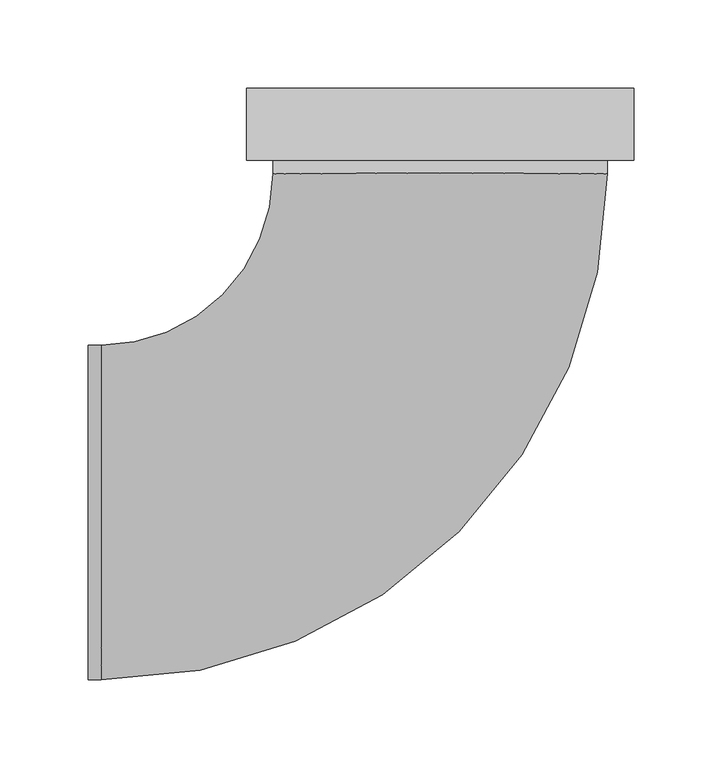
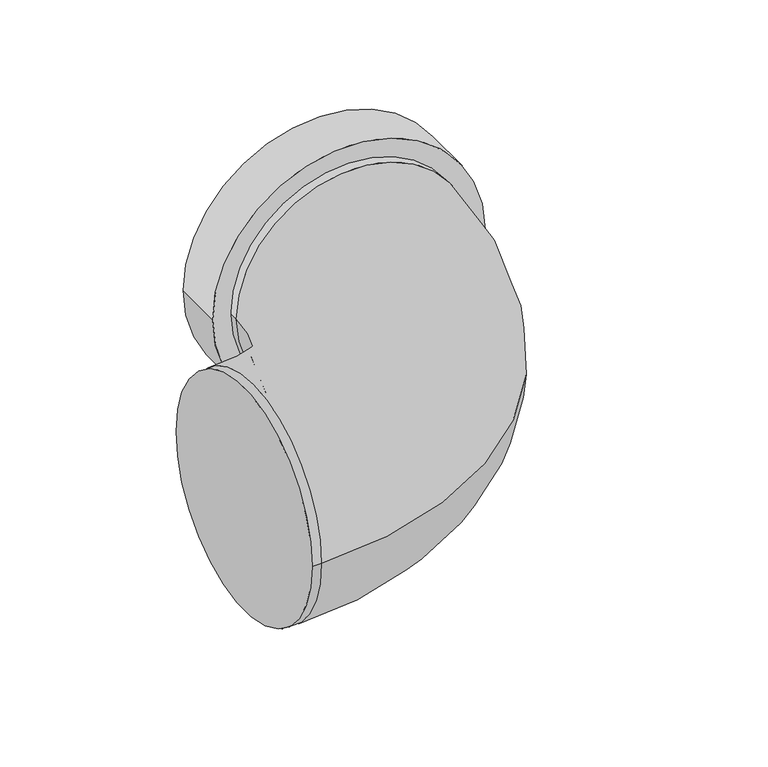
"""IFC4 building model written with IfcOpenShell, lengths in millimetres: duct fitting geometry, NLRS_57_DUF_UN_bend EPP_M&G : ø125 - ø180."""

from ifc_helpers import new_model, si_unit, point, frame, origin, place, context, project, spatial, polyline, circle_curve, ellipse_curve, trimmed, source, transform, mapped, element, save
from ifc_brep_helpers import plane_surface, cylinder_surface, revolved_surface, advanced_brep


def duct_fitting_00e25ecf(model_context):
    return source(origin(), model_context, "Body", "AdvancedBrep", [
        advanced_brep(
        [(-200.0, -95.0, 0.0), (-200.0, 95.0, 0.0), (-192.5, -95.0, 0.0), (-192.5, 95.0, 0.0), (-95.0, 192.5, 0.0), (95.0, 192.5, 0.0), (95.0, 204.0, 0.0), (-95.0, 204.0, 0.0)],
        [
            (0, 1, circle_curve(frame((-200.0, 0.0, 0.0), z_axis=(-1.0, 0.0, 0.0), x_axis=(0.0, 1.0, 0.0)), 95.0)),
            (1, 0, circle_curve(frame((-200.0, 0.0, 0.0), z_axis=(-1.0, 0.0, 0.0), x_axis=(0.0, 1.0, 0.0)), 95.0)),
            (0, 2),
            (2, 3, circle_curve(frame((-192.5, 0.0, 0.0), z_axis=(-1.0, 0.0, 0.0), x_axis=(0.0, 1.0, 0.0)), 95.0)),
            (3, 1),
            (3, 2, circle_curve(frame((-192.5, 0.0, 0.0), z_axis=(-1.0, 0.0, 0.0), x_axis=(0.0, 1.0, 0.0)), 95.0)),
            (4, 3, circle_curve(frame((-192.5, 192.5, 0.0), z_axis=(0.0, 0.0, -1.0), x_axis=(0.0, -1.0, 0.0)), 97.5)),
            (2, 5, circle_curve(frame((-192.5, 192.5, 0.0), z_axis=(0.0, 0.0, 1.0), x_axis=(0.0, -1.0, 0.0)), 287.5)),
            (5, 4, circle_curve(frame((0.0, 192.5, 0.0), z_axis=(0.0, -1.0, 0.0), x_axis=(-1.0, 0.0, 0.0)), 95.0)),
            (4, 5, circle_curve(frame((0.0, 192.5, 0.0), z_axis=(0.0, -1.0, 0.0), x_axis=(-1.0, 0.0, 0.0)), 95.0)),
            (6, 7, circle_curve(frame((0.0, 204.0, 0.0), z_axis=(0.0, 1.0, 0.0), x_axis=(-1.0, 0.0, 0.0)), 95.0)),
            (7, 6, circle_curve(frame((0.0, 204.0, 0.0), z_axis=(0.0, 1.0, 0.0), x_axis=(-1.0, 0.0, 0.0)), 95.0)),
            (5, 6),
            (7, 4),
        ],
        [
            plane_surface(frame((-200.0, 0.0, 0.0), z_axis=(-1.0, 0.0, 0.0), x_axis=(0.0, 0.0, 1.0))),
            cylinder_surface(frame((-200.0, 0.0, 0.0), z_axis=(-1.0, 0.0, 0.0), x_axis=(0.0, 1.0, 0.0)), 95.0),
            revolved_surface(trimmed(ellipse_curve(frame((-192.5, 0.0, 0.0), z_axis=(-1.0, 0.0, 0.0), x_axis=(0.0, 1.0, 0.0)), 95.0, 95.0), [point((-192.5, -95.0, 0.0))], [point((-192.5, 95.0, 0.0))], True, "CARTESIAN"), (-192.5, 192.5, 0.0), (0.0, 0.0, 1.0)),
            revolved_surface(trimmed(ellipse_curve(frame((-192.5, 0.0, 0.0), z_axis=(-1.0, 0.0, 0.0), x_axis=(0.0, 1.0, 0.0)), 95.0, 95.0), [point((-192.5, 95.0, 0.0))], [point((-192.5, -95.0, 0.0))], True, "CARTESIAN"), (-192.5, 192.5, 0.0), (0.0, 0.0, 1.0)),
            plane_surface(frame((0.0, 204.0, 0.0), z_axis=(0.0, 1.0, 0.0), x_axis=(0.0, 0.0, 1.0))),
            cylinder_surface(frame((0.0, 192.5, 0.0), z_axis=(0.0, -1.0, 0.0), x_axis=(-1.0, 0.0, 0.0)), 95.0),
        ],
        [
            (0, [[1, 2]]),
            (1, [[-1, 3, 4, 5]]),
            (1, [[-2, -5, 6, -3]]),
            (2, [[7, -4, 8, 9]]),
            (3, [[-8, -6, -7, 10]]),
            (4, [[11, 12]]),
            (5, [[-9, 13, -12, 14]]),
            (5, [[-10, -14, -11, -13]]),
        ],
    ),
        advanced_brep(
        [(110.0, 200.0, 0.0), (-110.0, 200.0, 0.0), (110.0, 241.0, 0.0), (-110.0, 241.0, 0.0), (95.0, 241.0, 0.0), (-95.0, 241.0, 0.0), (95.0, 204.0, 0.0), (-95.0, 204.0, 0.0)],
        [
            (0, 1, circle_curve(frame((0.0, 200.0, 0.0), z_axis=(0.0, -1.0, 0.0), x_axis=(-1.0, 0.0, 0.0)), 110.0)),
            (1, 0, circle_curve(frame((0.0, 200.0, 0.0), z_axis=(0.0, -1.0, 0.0), x_axis=(-1.0, 0.0, 0.0)), 110.0)),
            (2, 3, circle_curve(frame((0.0, 241.0, 0.0), z_axis=(0.0, 1.0, 0.0), x_axis=(-1.0, 0.0, 0.0)), 110.0)),
            (3, 2, circle_curve(frame((0.0, 241.0, 0.0), z_axis=(0.0, 1.0, 0.0), x_axis=(-1.0, 0.0, 0.0)), 110.0)),
            (4, 5, circle_curve(frame((0.0, 241.0, 0.0), z_axis=(0.0, -1.0, 0.0), x_axis=(-1.0, 0.0, 0.0)), 95.0)),
            (5, 4, circle_curve(frame((0.0, 241.0, 0.0), z_axis=(0.0, -1.0, 0.0), x_axis=(-1.0, 0.0, 0.0)), 95.0)),
            (0, 2),
            (3, 1),
            (6, 7, circle_curve(frame((0.0, 204.0, 0.0), z_axis=(0.0, 1.0, 0.0), x_axis=(-1.0, 0.0, 0.0)), 95.0)),
            (7, 6, circle_curve(frame((0.0, 204.0, 0.0), z_axis=(0.0, 1.0, 0.0), x_axis=(-1.0, 0.0, 0.0)), 95.0)),
            (7, 5),
            (4, 6),
        ],
        [
            plane_surface(frame((0.0, 200.0, 0.0), z_axis=(0.0, -1.0, 0.0), x_axis=(0.0, 0.0, 1.0))),
            plane_surface(frame((0.0, 241.0, 0.0), z_axis=(0.0, 1.0, 0.0), x_axis=(0.0, 0.0, 1.0))),
            cylinder_surface(frame((0.0, 200.0, 0.0), z_axis=(0.0, -1.0, 0.0), x_axis=(-1.0, 0.0, 0.0)), 110.0),
            plane_surface(frame((0.0, 204.0, 0.0), z_axis=(0.0, 1.0, 0.0), x_axis=(0.0, 0.0, 1.0))),
            revolved_surface(polyline([(-95.0, 204.0, 0.0), (-95.0, 241.0, 0.0)]), (0.0, 204.0, 0.0), (0.0, -1.0, 0.0)),
        ],
        [
            (0, [[1, 2]]),
            (1, [[3, 4], [5, 6]]),
            (2, [[-1, 7, -4, 8]]),
            (2, [[-2, -8, -3, -7]]),
            (3, [[9, 10]]),
            (4, [[-10, 11, -5, 12]]),
            (4, [[-9, -12, -6, -11]]),
        ],
    ),
    ])


if __name__ == "__main__":
    model = new_model("IFC4")
    model_context = context("Model", 3, world=origin())
    ifc_project = project(units=[si_unit("LENGTHUNIT", "METRE", prefix="MILLI")], contexts=[model_context])
    site = spatial("IfcSite", under=ifc_project)
    building = spatial("IfcBuilding", under=site)
    placement = place(None, origin())
    duct_fitting_shape = duct_fitting_00e25ecf(model_context)
    element("IfcDuctFitting", 1, ObjectType="NLRS_57_DUF_UN_bend EPP_M&G : ø125 - ø180", at=placement, inside=building, context=model_context, shape_type="MappedRepresentation", body=[
        mapped(duct_fitting_shape, transform((0.0, 0.0, 0.0), x_axis=(1.0, 0.0, 0.0), y_axis=(0.0, 1.0, 0.0), z_axis=(0.0, 0.0, 1.0))),
    ])
    save(model, "model.ifc")
